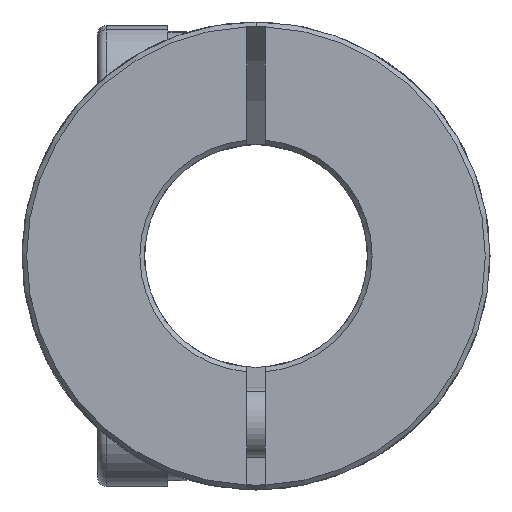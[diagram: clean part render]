
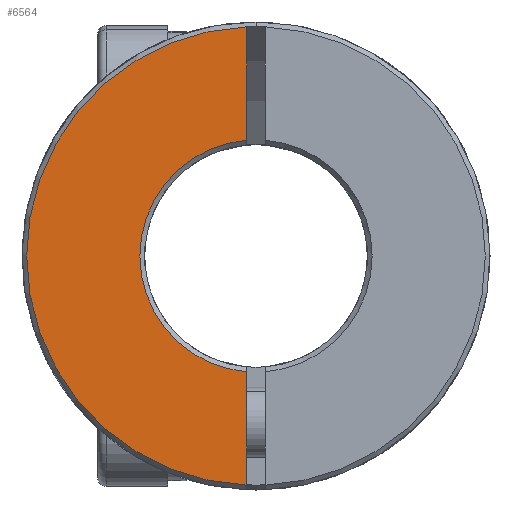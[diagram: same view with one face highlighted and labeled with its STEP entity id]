
A CAD part, front view. The second image highlights one B-rep face of the part: STEP entity #6564.
In plain terms, the highlighted planar face has unit normal (0, -1, 0).
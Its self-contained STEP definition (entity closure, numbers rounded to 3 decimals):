
#89 = CARTESIAN_POINT ( 'NONE',  ( -0.4, -17.5, -4.946 ) ) ;
#161 = EDGE_CURVE ( 'NONE', #5161, #1330, #6567, .T. ) ;
#428 = EDGE_CURVE ( 'NONE', #5161, #6972, #586, .T. ) ;
#586 = LINE ( 'NONE', #1254, #7406 ) ;
#636 = VECTOR ( 'NONE', #2902, 1000. ) ;
#862 = CARTESIAN_POINT ( 'NONE',  ( 0., -17.5, 0. ) ) ;
#941 = ORIENTED_EDGE ( 'NONE', *, *, #2987, .T. ) ;
#1098 = LINE ( 'NONE', #4548, #636 ) ;
#1254 = CARTESIAN_POINT ( 'NONE',  ( -0.4, -17.5, 0. ) ) ;
#1330 = VERTEX_POINT ( 'NONE', #2271 ) ;
#1402 = EDGE_CURVE ( 'NONE', #3922, #1330, #1098, .T. ) ;
#1416 = PLANE ( 'NONE',  #2537 ) ;
#1835 = AXIS2_PLACEMENT_3D ( 'NONE', #6476, #4742, #4691 ) ;
#1864 = DIRECTION ( 'NONE',  ( 0., 0., -1. ) ) ;
#1929 = DIRECTION ( 'NONE',  ( 0., 0., 1. ) ) ;
#1992 = CARTESIAN_POINT ( 'NONE',  ( -0.4, -17.5, -9.792 ) ) ;
#2271 = CARTESIAN_POINT ( 'NONE',  ( -0.4, -17.5, 4.946 ) ) ;
#2537 = AXIS2_PLACEMENT_3D ( 'NONE', #6555, #3138, #1929 ) ;
#2902 = DIRECTION ( 'NONE',  ( 0., 0., -1. ) ) ;
#2987 = EDGE_CURVE ( 'NONE', #3922, #6972, #5719, .T. ) ;
#3138 = DIRECTION ( 'NONE',  ( 0., 1., 0. ) ) ;
#3624 = ORIENTED_EDGE ( 'NONE', *, *, #1402, .F. ) ;
#3718 = DIRECTION ( 'NONE',  ( 0., 0., 1. ) ) ;
#3768 = ORIENTED_EDGE ( 'NONE', *, *, #428, .F. ) ;
#3821 = EDGE_LOOP ( 'NONE', ( #3624, #941, #3768, #6181 ) ) ;
#3922 = VERTEX_POINT ( 'NONE', #7010 ) ;
#4271 = AXIS2_PLACEMENT_3D ( 'NONE', #862, #5778, #3718 ) ;
#4548 = CARTESIAN_POINT ( 'NONE',  ( -0.4, -17.5, 0. ) ) ;
#4691 = DIRECTION ( 'NONE',  ( 0., 0., 1. ) ) ;
#4742 = DIRECTION ( 'NONE',  ( 0., -1., 0. ) ) ;
#5161 = VERTEX_POINT ( 'NONE', #89 ) ;
#5719 = CIRCLE ( 'NONE', #1835, 9.8 ) ;
#5778 = DIRECTION ( 'NONE',  ( 0., 1., 0. ) ) ;
#6181 = ORIENTED_EDGE ( 'NONE', *, *, #161, .T. ) ;
#6476 = CARTESIAN_POINT ( 'NONE',  ( 0., -17.5, 0. ) ) ;
#6555 = CARTESIAN_POINT ( 'NONE',  ( 0., -17.5, 0. ) ) ;
#6564 = ADVANCED_FACE ( 'NONE', ( #7173 ), #1416, .F. ) ;
#6567 = CIRCLE ( 'NONE', #4271, 4.963 ) ;
#6972 = VERTEX_POINT ( 'NONE', #1992 ) ;
#7010 = CARTESIAN_POINT ( 'NONE',  ( -0.4, -17.5, 9.792 ) ) ;
#7173 = FACE_OUTER_BOUND ( 'NONE', #3821, .T. ) ;
#7406 = VECTOR ( 'NONE', #1864, 1000. ) ;
